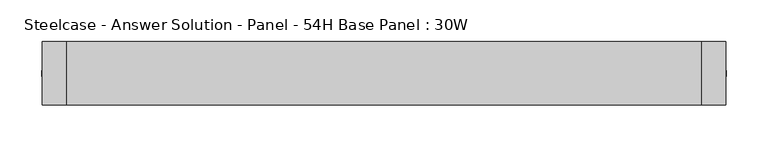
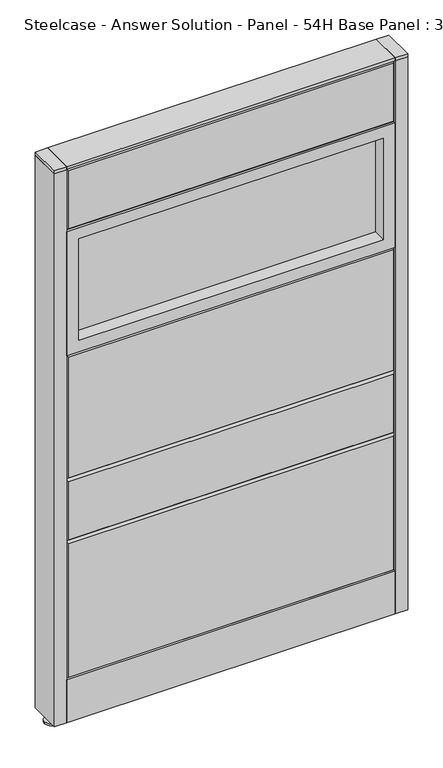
"""IFC4 building model written with IfcOpenShell, lengths in millimetres: furniture geometry, Steelcase - Answer Solution - Panel - 54H Base Panel : 30W."""

import ifcopenshell
import ifcopenshell.guid

model = None  # the IFC model being written
_history = None  # IfcOwnerHistory: only IFC2X3 demands one
_inside = {}  # id of a spatial element -> (the spatial element, [elements in it])
_under = {}  # id of a project, library or spatial element -> (it, [spatial elements below it])
_declared = {}  # id of a project -> (the project, [libraries it declares])
_typed = {}  # id of a type object -> (the type object, [elements of that type])
_made_of = {}  # id of a material, layer set ... -> (it, [elements and type objects made of it])


def new_model(schema):
    """Start an empty IFC model of exactly this schema.

    Asked for "IFC4X3", IfcOpenShell would pick the latest addendum, in which some entities
    have other attributes; the version numbers below select the first issue.
    IFC2X3 requires an IfcOwnerHistory on every rooted entity: one is made here for all.
    """
    global model, _history
    if schema == "IFC4X3":
        model = ifcopenshell.file(schema_version=(4, 3, 0, 0))
    else:
        model = ifcopenshell.file(schema=schema)
    _inside.clear()
    _under.clear()
    _declared.clear()
    _typed.clear()
    _made_of.clear()
    _history = None
    if model.schema == "IFC2X3":
        org = make("IfcOrganization", Name="unknown")
        user = make(
            "IfcPersonAndOrganization",
            ThePerson=make("IfcPerson", FamilyName="unknown"),
            TheOrganization=org,
        )
        app = make(
            "IfcApplication",
            ApplicationDeveloper=org,
            Version="unknown",
            ApplicationFullName="unknown",
            ApplicationIdentifier="unknown",
        )
        _history = make(
            "IfcOwnerHistory",
            OwningUser=user,
            OwningApplication=app,
            ChangeAction="ADDED",
            CreationDate=0,
        )
    return model


def make(cls, **values):
    """One entity of the class cls with the attributes given. An attribute that is None is left unset."""
    return model.create_entity(
        cls, **{name: value for name, value in values.items() if value is not None}
    )


def rooted(cls, **values):
    """An entity with a GlobalId (a new one), such as an element, a storey or a relation."""
    return make(cls, GlobalId=ifcopenshell.guid.new(), OwnerHistory=_history, **values)


def si_unit(unit_type, name, prefix=None):
    """IfcSIUnit, for example si_unit("LENGTHUNIT", "METRE", prefix="MILLI")."""
    return make("IfcSIUnit", UnitType=unit_type, Prefix=prefix, Name=name)


def assignment(units):
    """IfcUnitAssignment: the units of a project."""
    return None if units is None else make("IfcUnitAssignment", Units=units)


def point(xyz):
    """IfcCartesianPoint."""
    return None if xyz is None else make("IfcCartesianPoint", Coordinates=xyz)


def direction(xyz):
    """IfcDirection."""
    return None if xyz is None else make("IfcDirection", DirectionRatios=xyz)


def frame(location, z_axis=None, x_axis=None):
    """IfcAxis2Placement3D, a coordinate frame: its origin and axes. An axis left out is left unset."""
    return make(
        "IfcAxis2Placement3D",
        Location=point(location),
        Axis=direction(z_axis),
        RefDirection=direction(x_axis),
    )


def frame_2d(location, x_axis=None):
    """IfcAxis2Placement2D, a coordinate frame in the plane: its origin and x axis."""
    return make(
        "IfcAxis2Placement2D", Location=point(location), RefDirection=direction(x_axis)
    )


def origin():
    """The frame at (0, 0, 0) with its axes left unset."""
    return frame((0.0, 0.0, 0.0))


def place(relative_to, where):
    """IfcLocalPlacement: puts the frame where relative to a parent placement (None: the world)."""
    return make(
        "IfcLocalPlacement", PlacementRelTo=relative_to, RelativePlacement=where
    )


def context(
    kind, dimensions, precision=None, world=None, true_north=None, identifier=None
):
    """IfcGeometricRepresentationContext, for example the 3D "Model" context."""
    return make(
        "IfcGeometricRepresentationContext",
        ContextIdentifier=identifier,
        ContextType=kind,
        CoordinateSpaceDimension=dimensions,
        Precision=precision,
        WorldCoordinateSystem=world,
        TrueNorth=true_north,
    )


def project(units=None, contexts=None):
    """IfcProject with its units and contexts."""
    return rooted(
        "IfcProject",
        Name="project",
        RepresentationContexts=contexts,
        UnitsInContext=assignment(units),
    )


def spatial(cls, under=None, at=None, **own):
    """A site, building, storey or space (cls), placed at a placement, below another one or the project."""
    s = rooted(cls, ObjectPlacement=at, **own)
    if under is not None:
        _under.setdefault(under.id(), (under, []))[1].append(s)
    return s


def polyline(points):
    """IfcPolyline through the points."""
    return make("IfcPolyline", Points=[point(p) for p in points])


def circle_curve(where, radius):
    """IfcCircle in the frame where."""
    return make("IfcCircle", Position=where, Radius=radius)


def trimmed(basis, trim1, trim2, sense, master):
    """IfcTrimmedCurve: the piece of a basis curve between two trims."""
    return make(
        "IfcTrimmedCurve",
        BasisCurve=basis,
        Trim1=trim1,
        Trim2=trim2,
        SenseAgreement=sense,
        MasterRepresentation=master,
    )


def segment(curve, same_sense, transition):
    """IfcCompositeCurveSegment."""
    return make(
        "IfcCompositeCurveSegment",
        Transition=transition,
        SameSense=same_sense,
        ParentCurve=curve,
    )


def composite_curve(segments, self_intersect=None):
    """IfcCompositeCurve: segments joined end to end."""
    return make("IfcCompositeCurve", Segments=segments, SelfIntersect=self_intersect)


def outline(outer, holes=None, kind="AREA"):
    """IfcArbitraryClosedProfileDef: a profile drawn as a closed curve; with holes, ...WithVoids."""
    if holes is None:
        return make("IfcArbitraryClosedProfileDef", ProfileType=kind, OuterCurve=outer)
    return make(
        "IfcArbitraryProfileDefWithVoids",
        ProfileType=kind,
        OuterCurve=outer,
        InnerCurves=holes,
    )


def extrude(swept, where, along, depth):
    """IfcExtrudedAreaSolid: the profile swept, set in the frame where, extruded along a direction by depth."""
    return make(
        "IfcExtrudedAreaSolid",
        SweptArea=swept,
        Position=where,
        ExtrudedDirection=direction(along),
        Depth=depth,
    )


def faces_of(points, faces, orient=None, outer=None):
    """IfcFace entities. A face is a list of loops; a loop is a list of indices into points, from 0.

    orient and outer hold one flag for each loop. By default every Orientation is true, the
    first loop of a face is its IfcFaceOuterBound and the others are IfcFaceBound.
    """
    made = []
    for i, loops in enumerate(faces):
        bounds = []
        for j, loop in enumerate(loops):
            is_outer = j == 0 if outer is None else outer[i][j]
            bounds.append(
                make(
                    "IfcFaceOuterBound" if is_outer else "IfcFaceBound",
                    Bound=make("IfcPolyLoop", Polygon=[points[k] for k in loop]),
                    Orientation=True if orient is None else orient[i][j],
                )
            )
        made.append(make("IfcFace", Bounds=bounds))
    return made


def faceted_brep(points, faces, orient=None, outer=None, voids=None):
    """IfcFacetedBrep: a solid bounded by flat faces; with voids (closed shells), ...WithVoids."""
    shared = [point(p) for p in points]
    hull = make("IfcClosedShell", CfsFaces=faces_of(shared, faces, orient, outer))
    if voids is None:
        return make("IfcFacetedBrep", Outer=hull)
    return make(
        "IfcFacetedBrepWithVoids",
        Outer=hull,
        Voids=[
            make(cls, CfsFaces=faces_of(shared, fs, o, b)) for cls, fs, o, b in voids
        ],
    )


def shape(context_of_items, identifier, shape_type, items):
    """IfcShapeRepresentation: the items that make up one representation, for example the "Body"."""
    return make(
        "IfcShapeRepresentation",
        ContextOfItems=context_of_items,
        RepresentationIdentifier=identifier,
        RepresentationType=shape_type,
        Items=items,
    )


def source(mapping_origin, context_of_items, identifier, shape_type, items):
    """IfcRepresentationMap: a shape defined once, which mapped items show again and again."""
    return make(
        "IfcRepresentationMap",
        MappingOrigin=mapping_origin,
        MappedRepresentation=shape(context_of_items, identifier, shape_type, items),
    )


def transform(
    local_origin,
    x_axis=None,
    y_axis=None,
    z_axis=None,
    scale=None,
    scale2=None,
    scale3=None,
    uniform=True,
):
    """IfcCartesianTransformationOperator3D, or its non-uniform kind. x_axis, y_axis, z_axis: its Axis1, 2, 3."""
    if uniform:
        return make(
            "IfcCartesianTransformationOperator3D",
            Axis1=direction(x_axis),
            Axis2=direction(y_axis),
            LocalOrigin=point(local_origin),
            Scale=scale,
            Axis3=direction(z_axis),
        )
    return make(
        "IfcCartesianTransformationOperator3DnonUniform",
        Axis1=direction(x_axis),
        Axis2=direction(y_axis),
        LocalOrigin=point(local_origin),
        Scale=scale,
        Axis3=direction(z_axis),
        Scale2=scale2,
        Scale3=scale3,
    )


def mapped(mapping_source, mapping_target):
    """IfcMappedItem: shows the shape of a source again, moved by a transform."""
    return make(
        "IfcMappedItem", MappingSource=mapping_source, MappingTarget=mapping_target
    )


def made_of(thing, what):
    """Note that an element or type object is made of a material, layer set ...; save() writes the relation."""
    if what is not None:
        _made_of.setdefault(what.id(), (what, []))[1].append(thing)
    return thing


def element(
    cls,
    number,
    at=None,
    inside=None,
    cuts=None,
    type_object=None,
    material=None,
    context=None,
    identifier="Body",
    shape_type=None,
    held_by="IfcProductDefinitionShape",
    body=None,
    shapes=None,
    **own,
):
    """One element of the class cls, such as IfcWall. Its Tag is "e" and its number.

    at: its placement. inside: the storey or other place that contains it. cuts: it is an
    opening in that element (IfcRelVoidsElement). A single representation is given by context,
    identifier, shape_type and body (its items); several are given by shapes. held_by: the class
    of the entity that holds the representations. save() writes the other relations.
    """
    e = rooted(cls, Tag="e%d" % number, ObjectPlacement=at, **own)
    if body is not None:
        shapes = [shape(context, identifier, shape_type, body)]
    if shapes is not None:
        e.Representation = make(held_by, Representations=shapes)
    if inside is not None:
        _inside.setdefault(inside.id(), (inside, []))[1].append(e)
    if cuts is not None:
        rooted(
            "IfcRelVoidsElement", RelatingBuildingElement=cuts, RelatedOpeningElement=e
        )
    if type_object is not None:
        _typed.setdefault(type_object.id(), (type_object, []))[1].append(e)
    return made_of(e, material)


def aggregate(whole, parts):
    """IfcRelAggregates: a whole, such as a stair, and the parts it consists of."""
    return rooted("IfcRelAggregates", RelatingObject=whole, RelatedObjects=parts)


def save(model, path):
    """Write the relations noted so far, then the file.

    IfcRelAggregates (storeys below a building ...), IfcRelContainedInSpatialStructure (elements
    in a storey), IfcRelDefinesByType, IfcRelAssociatesMaterial and IfcRelDeclares: one each for
    every whole, place, type object, material and project.
    """
    for whole, parts in _under.values():
        aggregate(whole, parts)
    for where, things in _inside.values():
        rooted(
            "IfcRelContainedInSpatialStructure",
            RelatedElements=things,
            RelatingStructure=where,
        )
    for kind, things in _typed.values():
        rooted("IfcRelDefinesByType", RelatedObjects=things, RelatingType=kind)
    for what, things in _made_of.values():
        rooted("IfcRelAssociatesMaterial", RelatedObjects=things, RelatingMaterial=what)
    for by, libraries in _declared.values():
        rooted("IfcRelDeclares", RelatingContext=by, RelatedDefinitions=libraries)
    model.write(path)


def steelcase_answer_solution_panel_54h_base_panel_30w_5c75ed9a(model_context):
    return source(origin(), model_context, "Body", "SolidModel", [
        extrude(outline(composite_curve([segment(trimmed(circle_curve(frame_2d((395.224, 0.0320214)), 5.08), [point((400.304, 0.0320214))], [point((390.144, 0.0320214))], False, "CARTESIAN"), True, "CONTINUOUS"), segment(trimmed(circle_curve(frame_2d((395.224, 0.0320214)), 5.08), [point((390.144, 0.0320214))], [point((400.304, 0.0320214))], False, "CARTESIAN"), True, "CONTINUOUS")], self_intersect=False)), frame((0.0, 0.0, 5.0799671), z_axis=(0.0, 0.0, 1.0), x_axis=(1.0, 0.0, 0.0)), (0.0, 0.0, 1.0), 10.414),
        extrude(outline(composite_curve([segment(trimmed(circle_curve(frame_2d((395.224, 0.0320214)), 15.24), [point((410.464, 0.0320214))], [point((379.984, 0.0320214))], False, "CARTESIAN"), True, "CONTINUOUS"), segment(trimmed(circle_curve(frame_2d((395.224, 0.0320214)), 15.24), [point((379.984, 0.0320214))], [point((410.464, 0.0320214))], False, "CARTESIAN"), True, "CONTINUOUS")], self_intersect=False)), frame((0.0, 0.0, -3.29e-05), z_axis=(0.0, 0.0, 1.0), x_axis=(1.0, 0.0, 0.0)), (0.0, 0.0, 1.0), 5.08),
        extrude(outline(polyline([(409.575, 38.1320408), (409.575, -38.0679592), (381.0, -38.0679592), (381.0, 38.1320408), (409.575, 38.1320408)])), frame((0.0, 0.0, 1370.6348), z_axis=(0.0, 0.0, 1.0), x_axis=(1.0, 0.0, 0.0)), (0.0, 0.0, 1.0), 7.3151671),
        extrude(outline(polyline([(409.575, 38.1320408), (409.575, -38.0679592), (381.0, -38.0679592), (381.0, 38.1320408), (409.575, 38.1320408)])), frame((0.0, 0.0, 15.4939671), z_axis=(0.0, 0.0, 1.0), x_axis=(1.0, 0.0, 0.0)), (0.0, 0.0, 1.0), 1355.1408329),
        extrude(outline(composite_curve([segment(trimmed(circle_curve(frame_2d((-395.224, 0.0320214)), 5.08), [point((-400.304, 0.0320214))], [point((-390.144, 0.0320214))], False, "CARTESIAN"), True, "CONTINUOUS"), segment(trimmed(circle_curve(frame_2d((-395.224, 0.0320214)), 5.08), [point((-390.144, 0.0320214))], [point((-400.304, 0.0320214))], False, "CARTESIAN"), True, "CONTINUOUS")], self_intersect=False)), frame((0.0, 0.0, 5.0799671), z_axis=(0.0, 0.0, 1.0), x_axis=(1.0, 0.0, 0.0)), (0.0, 0.0, 1.0), 10.414),
        extrude(outline(composite_curve([segment(trimmed(circle_curve(frame_2d((-395.224, 0.0320214)), 15.24), [point((-410.464, 0.0320214))], [point((-379.984, 0.0320214))], False, "CARTESIAN"), True, "CONTINUOUS"), segment(trimmed(circle_curve(frame_2d((-395.224, 0.0320214)), 15.24), [point((-379.984, 0.0320214))], [point((-410.464, 0.0320214))], False, "CARTESIAN"), True, "CONTINUOUS")], self_intersect=False)), frame((0.0, 0.0, -3.29e-05), z_axis=(0.0, 0.0, 1.0), x_axis=(1.0, 0.0, 0.0)), (0.0, 0.0, 1.0), 5.08),
        extrude(outline(polyline([(-409.575, 38.1320408), (-381.0, 38.1320408), (-381.0, -38.0679592), (-409.575, -38.0679592), (-409.575, 38.1320408)])), frame((0.0, 0.0, 1370.6348), z_axis=(0.0, 0.0, 1.0), x_axis=(1.0, 0.0, 0.0)), (0.0, 0.0, 1.0), 7.3151671),
        extrude(outline(polyline([(-409.575, 38.1320408), (-381.0, 38.1320408), (-381.0, -38.0679592), (-409.575, -38.0679592), (-409.575, 38.1320408)])), frame((0.0, 0.0, 15.4939671), z_axis=(0.0, 0.0, 1.0), x_axis=(1.0, 0.0, 0.0)), (0.0, 0.0, 1.0), 1355.1408329),
        faceted_brep([(-376.174, 38.1635011, 1366.774), (376.174, 38.1635011, 1366.774), (376.174, 38.1635011, 1224.026), (-376.174, 38.1635011, 1224.026), (-381.0, 33.3375011, 1371.6), (-381.0, 33.3375011, 1219.2), (381.0, 33.3375011, 1219.2), (381.0, 33.3375011, 1371.6)], [[[0, 1, 2, 3]], [[4, 5, 6, 7]], [[4, 7, 1, 0]], [[7, 6, 2, 1]], [[6, 5, 3, 2]], [[5, 4, 0, 3]]]),
        extrude(outline(polyline([(-353.06, 6.346049), (353.06, 6.346049), (353.06, -6.353951), (-353.06, -6.353951), (-353.06, 6.346049)])), frame((0.0, 0.0, 942.34), z_axis=(0.0, 0.0, 1.0), x_axis=(1.0, 0.0, 0.0)), (0.0, 0.0, 1.0), 248.92),
        extrude(outline(polyline([(1219.2, -381.0), (914.4, -381.0), (914.4, 381.0), (1219.2, 381.0), (1219.2, -381.0)]), holes=[polyline([(1191.26, -353.06), (1191.26, 353.06), (942.34, 353.06), (942.34, -353.06), (1191.26, -353.06)])]), frame((0.0, -38.103951, 0.0), z_axis=(0.0, 1.0, 0.0), x_axis=(0.0, 0.0, 1.0)), (0.0, 0.0, 1.0), 76.2),
        faceted_brep([(-376.174, 38.1635011, 909.574), (376.174, 38.1635011, 909.574), (376.174, 38.1635011, 614.426), (-376.174, 38.1635011, 614.426), (-381.0, 33.3375011, 914.4), (-381.0, 33.3375011, 609.6), (381.0, 33.3375011, 609.6), (381.0, 33.3375011, 914.4)], [[[0, 1, 2, 3]], [[4, 5, 6, 7]], [[4, 7, 1, 0]], [[7, 6, 2, 1]], [[6, 5, 3, 2]], [[5, 4, 0, 3]]]),
        faceted_brep([(-376.174, 38.1635011, 604.774), (376.174, 38.1635011, 604.774), (376.174, 38.1635011, 462.026), (-376.174, 38.1635011, 462.026), (-381.0, 33.3375011, 609.6), (-381.0, 33.3375011, 457.2), (381.0, 33.3375011, 457.2), (381.0, 33.3375011, 609.6)], [[[0, 1, 2, 3]], [[4, 5, 6, 7]], [[4, 7, 1, 0]], [[7, 6, 2, 1]], [[6, 5, 3, 2]], [[5, 4, 0, 3]]]),
        faceted_brep([(-376.174, 38.1635011, 452.374), (376.174, 38.1635011, 452.374), (376.174, 38.1635011, 125.476), (-376.174, 38.1635011, 125.476), (-381.0, 33.3375011, 457.2), (-381.0, 33.3375011, 120.65), (381.0, 33.3375011, 120.65), (381.0, 33.3375011, 457.2)], [[[0, 1, 2, 3]], [[4, 5, 6, 7]], [[4, 7, 1, 0]], [[7, 6, 2, 1]], [[6, 5, 3, 2]], [[5, 4, 0, 3]]]),
        faceted_brep([(376.174, -38.1635011, 1366.774), (-376.174, -38.1635011, 1366.774), (-376.174, -38.1635011, 1224.026), (376.174, -38.1635011, 1224.026), (381.0, -33.3375011, 1371.6), (381.0, -33.3375011, 1219.2), (-381.0, -33.3375011, 1219.2), (-381.0, -33.3375011, 1371.6)], [[[0, 1, 2, 3]], [[4, 5, 6, 7]], [[4, 7, 1, 0]], [[7, 6, 2, 1]], [[6, 5, 3, 2]], [[5, 4, 0, 3]]]),
        extrude(outline(polyline([(353.06, -6.346049), (-353.06, -6.346049), (-353.06, 6.353951), (353.06, 6.353951), (353.06, -6.346049)])), frame((0.0, 0.0, 942.34), z_axis=(0.0, 0.0, 1.0), x_axis=(1.0, 0.0, 0.0)), (0.0, 0.0, 1.0), 248.92),
        extrude(outline(polyline([(1219.2, 381.0), (1219.2, -381.0), (914.4, -381.0), (914.4, 381.0), (1219.2, 381.0)]), holes=[polyline([(1191.26, 353.06), (942.34, 353.06), (942.34, -353.06), (1191.26, -353.06), (1191.26, 353.06)])]), frame((0.0, -38.096049, 0.0), z_axis=(0.0, 1.0, 0.0), x_axis=(0.0, 0.0, 1.0)), (0.0, 0.0, 1.0), 76.2),
        faceted_brep([(376.174, -38.1635011, 909.574), (-376.174, -38.1635011, 909.574), (-376.174, -38.1635011, 614.426), (376.174, -38.1635011, 614.426), (381.0, -33.3375011, 914.4), (381.0, -33.3375011, 609.6), (-381.0, -33.3375011, 609.6), (-381.0, -33.3375011, 914.4)], [[[0, 1, 2, 3]], [[4, 5, 6, 7]], [[4, 7, 1, 0]], [[7, 6, 2, 1]], [[6, 5, 3, 2]], [[5, 4, 0, 3]]]),
        faceted_brep([(376.174, -38.1635011, 604.774), (-376.174, -38.1635011, 604.774), (-376.174, -38.1635011, 462.026), (376.174, -38.1635011, 462.026), (381.0, -33.3375011, 609.6), (381.0, -33.3375011, 457.2), (-381.0, -33.3375011, 457.2), (-381.0, -33.3375011, 609.6)], [[[0, 1, 2, 3]], [[4, 5, 6, 7]], [[4, 7, 1, 0]], [[7, 6, 2, 1]], [[6, 5, 3, 2]], [[5, 4, 0, 3]]]),
        faceted_brep([(376.174, -38.1635011, 452.374), (-376.174, -38.1635011, 452.374), (-376.174, -38.1635011, 125.476), (376.174, -38.1635011, 125.476), (381.0, -33.3375011, 457.2), (381.0, -33.3375011, 120.65), (-381.0, -33.3375011, 120.65), (-381.0, -33.3375011, 457.2)], [[[0, 1, 2, 3]], [[4, 5, 6, 7]], [[4, 7, 1, 0]], [[7, 6, 2, 1]], [[6, 5, 3, 2]], [[5, 4, 0, 3]]]),
        extrude(outline(polyline([(381.0, 38.1000194), (381.0, -38.1000194), (-381.0, -38.1000194), (-381.0, 38.1000194), (381.0, 38.1000194)])), frame((0.0, 0.0, 1371.6), z_axis=(0.0, 0.0, 1.0), x_axis=(1.0, 0.0, 0.0)), (0.0, 0.0, 1.0), 6.35),
        extrude(outline(polyline([(25.4000011, 119.8575157), (25.4000011, 120.65), (38.1000194, 120.65), (38.1000194, 15.494), (37.3075215, 15.494), (37.3075215, 119.8575157), (25.4000011, 119.8575157)])), frame((-381.0, 0.0, 0.0), z_axis=(1.0, 0.0, 0.0), x_axis=(0.0, 1.0, 0.0)), (0.0, 0.0, 1.0), 762.0),
        extrude(outline(polyline([(-25.4000011, 119.8575157), (-37.3075215, 119.8575157), (-37.3075215, 15.494), (-38.1000194, 15.494), (-38.1000194, 120.65), (-25.4000011, 120.65), (-25.4000011, 119.8575157)])), frame((-381.0, 0.0, 0.0), z_axis=(1.0, 0.0, 0.0), x_axis=(0.0, 1.0, 0.0)), (0.0, 0.0, 1.0), 762.0),
    ])


if __name__ == "__main__":
    model = new_model("IFC4")
    model_context = context("Model", 3, world=origin())
    ifc_project = project(units=[si_unit("LENGTHUNIT", "METRE", prefix="MILLI")], contexts=[model_context])
    site = spatial("IfcSite", under=ifc_project)
    building = spatial("IfcBuilding", under=site)
    placement = place(None, origin())
    steelcase_answer_solution_panel_54h_base_panel_30w_shape = steelcase_answer_solution_panel_54h_base_panel_30w_5c75ed9a(model_context)
    element("IfcFurniture", 1, ObjectType="Steelcase - Answer Solution - Panel - 54H Base Panel : 30W", at=placement, inside=building, context=model_context, shape_type="MappedRepresentation", body=[
        mapped(steelcase_answer_solution_panel_54h_base_panel_30w_shape, transform((0.0, 0.0, 0.0), x_axis=(1.0, 0.0, 0.0), y_axis=(0.0, 1.0, 0.0), z_axis=(0.0, 0.0, 1.0))),
    ])
    save(model, "model.ifc")
